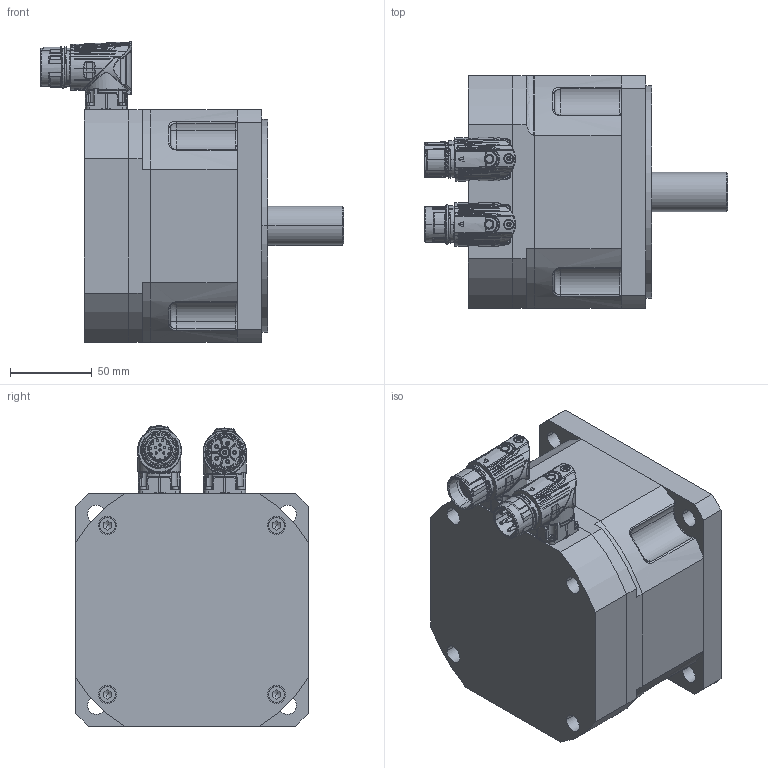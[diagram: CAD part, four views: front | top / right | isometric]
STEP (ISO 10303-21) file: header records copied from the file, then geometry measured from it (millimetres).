
FILE_DESCRIPTION(('CATIA V5 STEP Exchange'),'2;1');
FILE_NAME('C:\Documents and Settings\max\Documenti\sangallimotori\3d step\compatti\motore_DSM5_50.stp','2010-12-12T21:16:48+00:00',('none'),('none'),'CATIA Version 5 Release 10 (IN-8)','CATIA V5 STEP AP203',' none');
FILE_SCHEMA(('CONFIG_CONTROL_DESIGN'));
Assembly tree (27 placements, depth 0):
Bounding box: 185.31 x 142 x 183.43 mm (x, y, z)
Volume: 2013860.4 mm3; surface area: 246706.8 mm2
Topology: 23 solids, 28 shells, 4106 faces, 13912 edges, 9826 vertices
Faces by surface type: cylinder 1488, bspline 1326, plane 593, torus 357, cone 233, sphere 109
Entity records: 255060 total; most frequent: CARTESIAN_POINT 164661, ORIENTED_EDGE 25548, EDGE_CURVE 12831, VERTEX_POINT 9222, DIRECTION 8840, B_SPLINE_CURVE_WITH_KNOTS 7912, AXIS2_PLACEMENT_3D 4428, EDGE_LOOP 3852
